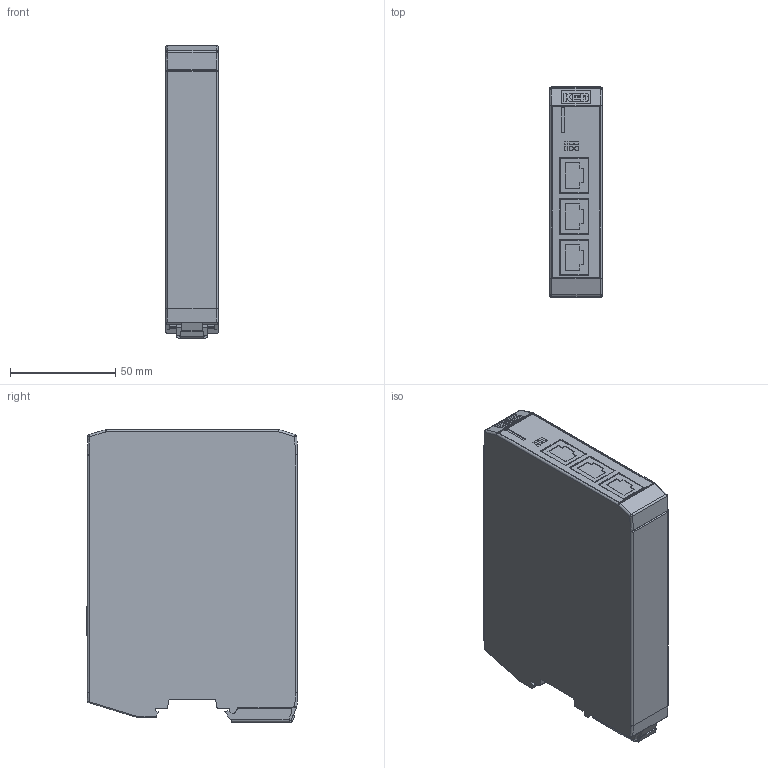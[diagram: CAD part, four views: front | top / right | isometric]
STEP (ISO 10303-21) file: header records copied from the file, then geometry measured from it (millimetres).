
FILE_DESCRIPTION (( 'STEP AP214' ), '1' );
FILE_NAME ('00C6BE1-1002.STEP', '2025-05-12T13:23:53', ( '' ), ( '' ), 'SwSTEP 2.0', 'SolidWorks 2022', '' );
FILE_SCHEMA (( 'AUTOMOTIVE_DESIGN' ));
Length unit declared in the file: millimetre
Products named in the file (1): 00C6BE1-1002
Bounding box: 25 x 100.29 x 139.25 mm (x, y, z)
Volume: 331547.1 mm3; surface area: 38954.6 mm2
Topology: 1 solids, 1 shells, 356 faces, 946 edges, 608 vertices
Faces by surface type: plane 234, cylinder 87, bspline 35
Entity records: 12719 total; most frequent: CARTESIAN_POINT 4236, ORIENTED_EDGE 1876, DIRECTION 1526, EDGE_CURVE 938, VECTOR 678, LINE 678, VERTEX_POINT 608, AXIS2_PLACEMENT_3D 424
